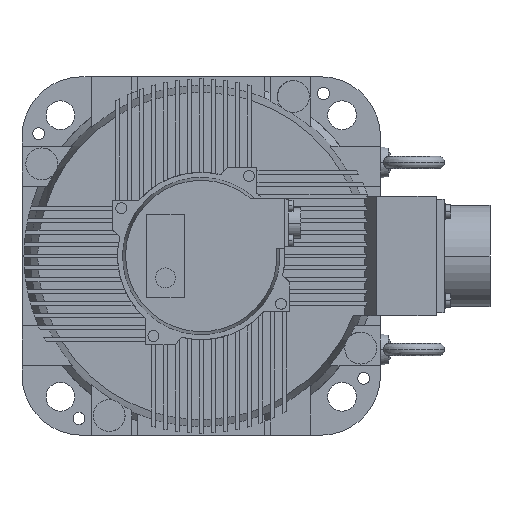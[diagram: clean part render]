
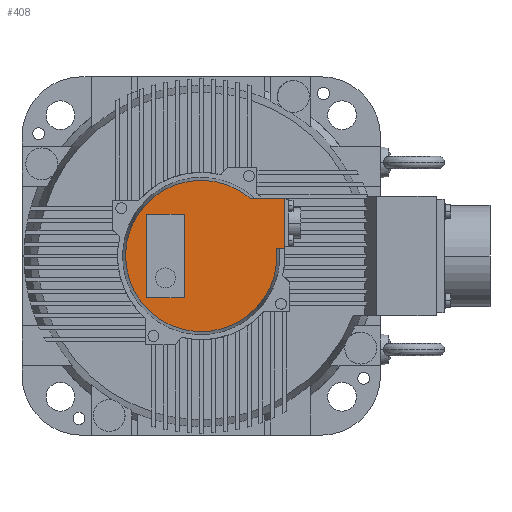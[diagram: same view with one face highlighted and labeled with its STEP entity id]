
A CAD part, left-side view. The second image highlights one B-rep face of the part: STEP entity #408.
In plain terms, the highlighted planar face has unit normal (-1, 0, 0).
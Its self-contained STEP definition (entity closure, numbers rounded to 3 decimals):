
#408=ADVANCED_FACE('',(#3871,#3872),#3870,.F.);
#3870=PLANE('',#10379);
#3871=FACE_OUTER_BOUND('',#10380,.T.);
#3872=FACE_BOUND('',#10381,.T.);
#10376=CARTESIAN_POINT('',(-219.,-52.891,71.254));
#10377=DIRECTION('',(1.,0.,0.));
#10378=DIRECTION('',(0.,0.,-1.));
#10379=AXIS2_PLACEMENT_3D('',#10376,#10377,#10378);
#10380=EDGE_LOOP('',(#14861,#14862,#14863,#14864));
#10381=EDGE_LOOP('',(#14865,#14866,#14867,#14868));
#14861=ORIENTED_EDGE('',*,*,#17409,.F.);
#14862=ORIENTED_EDGE('',*,*,#17534,.F.);
#14863=ORIENTED_EDGE('',*,*,#18590,.F.);
#14864=ORIENTED_EDGE('',*,*,#17526,.F.);
#14865=ORIENTED_EDGE('',*,*,#18581,.F.);
#14866=ORIENTED_EDGE('',*,*,#18579,.F.);
#14867=ORIENTED_EDGE('',*,*,#18577,.F.);
#14868=ORIENTED_EDGE('',*,*,#18574,.F.);
#17409=EDGE_CURVE('',#19651,#19652,#19653,.T.);
#17526=EDGE_CURVE('',#19652,#20463,#20464,.T.);
#17534=EDGE_CURVE('',#20509,#19651,#20516,.T.);
#18574=EDGE_CURVE('',#27557,#27558,#27559,.T.);
#18577=EDGE_CURVE('',#27558,#27577,#27578,.T.);
#18579=EDGE_CURVE('',#27577,#27590,#27591,.T.);
#18581=EDGE_CURVE('',#27590,#27557,#27603,.T.);
#18590=EDGE_CURVE('',#20463,#20509,#27665,.T.);
#19651=VERTEX_POINT('',#33754);
#19652=VERTEX_POINT('',#33755);
#19653=CIRCLE('',#33759,38.);
#20463=VERTEX_POINT('',#34418);
#20464=LINE('',#34419,#34420);
#20509=VERTEX_POINT('',#34444);
#20516=LINE('',#34448,#34449);
#27557=VERTEX_POINT('',#38790);
#27558=VERTEX_POINT('',#38791);
#27559=LINE('',#38792,#38793);
#27577=VERTEX_POINT('',#38801);
#27578=LINE('',#38802,#38803);
#27590=VERTEX_POINT('',#38808);
#27591=LINE('',#38809,#38810);
#27603=LINE('',#38815,#38816);
#27665=LINE('',#38858,#38859);
#33754=CARTESIAN_POINT('',(-219.,-37.789,4.));
#33755=CARTESIAN_POINT('',(-219.,-24.556,29.));
#33756=CARTESIAN_POINT('',(-219.,0.,0.));
#33757=DIRECTION('',(1.,0.,0.));
#33758=DIRECTION('',(0.,-0.994,0.105));
#33759=AXIS2_PLACEMENT_3D('',#33756,#33757,#33758);
#34418=CARTESIAN_POINT('',(-219.,-42.,29.));
#34419=CARTESIAN_POINT('',(-219.,-24.556,29.));
#34420=VECTOR('',#34421,17.444);
#34421=DIRECTION('',(0.,-1.,0.));
#34444=CARTESIAN_POINT('',(-219.,-42.,4.));
#34448=CARTESIAN_POINT('',(-219.,-42.,4.));
#34449=VECTOR('',#34450,4.211);
#34450=DIRECTION('',(0.,1.,0.));
#38790=CARTESIAN_POINT('',(-219.,8.5,21.));
#38791=CARTESIAN_POINT('',(-219.,27.5,21.));
#38792=CARTESIAN_POINT('',(-219.,8.5,21.));
#38793=VECTOR('',#38794,19.);
#38794=DIRECTION('',(0.,1.,0.));
#38801=CARTESIAN_POINT('',(-219.,27.5,-21.));
#38802=CARTESIAN_POINT('',(-219.,27.5,21.));
#38803=VECTOR('',#38804,42.);
#38804=DIRECTION('',(0.,0.,-1.));
#38808=CARTESIAN_POINT('',(-219.,8.5,-21.));
#38809=CARTESIAN_POINT('',(-219.,27.5,-21.));
#38810=VECTOR('',#38811,19.);
#38811=DIRECTION('',(0.,-1.,0.));
#38815=CARTESIAN_POINT('',(-219.,8.5,-21.));
#38816=VECTOR('',#38817,42.);
#38817=DIRECTION('',(0.,0.,1.));
#38858=CARTESIAN_POINT('',(-219.,-42.,29.));
#38859=VECTOR('',#38860,25.);
#38860=DIRECTION('',(0.,0.,-1.));
